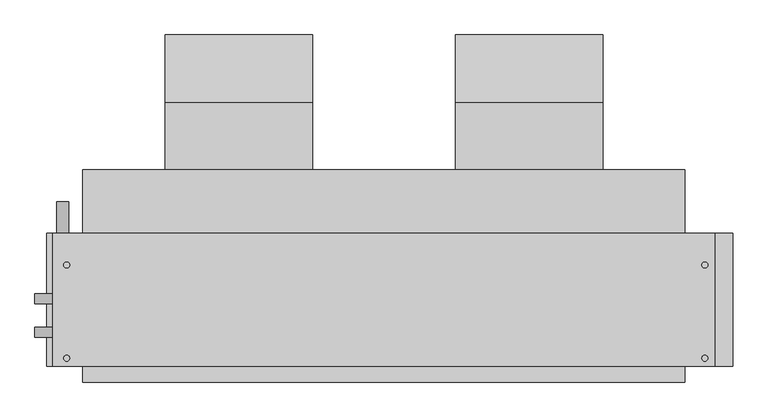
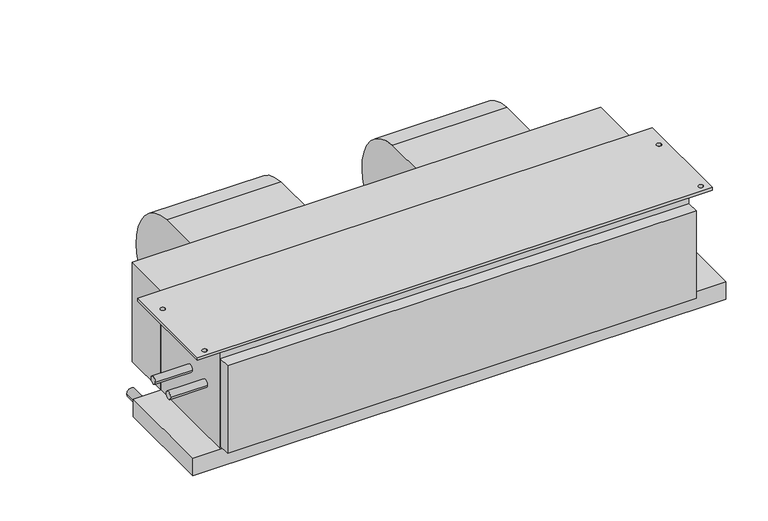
"""IFC4 building model written with IfcOpenShell, lengths in millimetres: proxy geometry, Concealed_Horizontal_Fan_Coil_Unit_-_42CAA_-_CARRIER_-_2-Pipe_Cool-EHeat_LH_2022 : Size 08 - 277v/60Hz/1Ph - 4 Row 6.0kW."""

import ifcopenshell
import ifcopenshell.guid

model = None  # the IFC model being written
_history = None  # IfcOwnerHistory: only IFC2X3 demands one
_inside = {}  # id of a spatial element -> (the spatial element, [elements in it])
_under = {}  # id of a project, library or spatial element -> (it, [spatial elements below it])
_declared = {}  # id of a project -> (the project, [libraries it declares])
_typed = {}  # id of a type object -> (the type object, [elements of that type])
_made_of = {}  # id of a material, layer set ... -> (it, [elements and type objects made of it])


def new_model(schema):
    """Start an empty IFC model of exactly this schema.

    Asked for "IFC4X3", IfcOpenShell would pick the latest addendum, in which some entities
    have other attributes; the version numbers below select the first issue.
    IFC2X3 requires an IfcOwnerHistory on every rooted entity: one is made here for all.
    """
    global model, _history
    if schema == "IFC4X3":
        model = ifcopenshell.file(schema_version=(4, 3, 0, 0))
    else:
        model = ifcopenshell.file(schema=schema)
    _inside.clear()
    _under.clear()
    _declared.clear()
    _typed.clear()
    _made_of.clear()
    _history = None
    if model.schema == "IFC2X3":
        org = make("IfcOrganization", Name="unknown")
        user = make(
            "IfcPersonAndOrganization",
            ThePerson=make("IfcPerson", FamilyName="unknown"),
            TheOrganization=org,
        )
        app = make(
            "IfcApplication",
            ApplicationDeveloper=org,
            Version="unknown",
            ApplicationFullName="unknown",
            ApplicationIdentifier="unknown",
        )
        _history = make(
            "IfcOwnerHistory",
            OwningUser=user,
            OwningApplication=app,
            ChangeAction="ADDED",
            CreationDate=0,
        )
    return model


def make(cls, **values):
    """One entity of the class cls with the attributes given. An attribute that is None is left unset."""
    return model.create_entity(
        cls, **{name: value for name, value in values.items() if value is not None}
    )


def rooted(cls, **values):
    """An entity with a GlobalId (a new one), such as an element, a storey or a relation."""
    return make(cls, GlobalId=ifcopenshell.guid.new(), OwnerHistory=_history, **values)


def si_unit(unit_type, name, prefix=None):
    """IfcSIUnit, for example si_unit("LENGTHUNIT", "METRE", prefix="MILLI")."""
    return make("IfcSIUnit", UnitType=unit_type, Prefix=prefix, Name=name)


def assignment(units):
    """IfcUnitAssignment: the units of a project."""
    return None if units is None else make("IfcUnitAssignment", Units=units)


def point(xyz):
    """IfcCartesianPoint."""
    return None if xyz is None else make("IfcCartesianPoint", Coordinates=xyz)


def direction(xyz):
    """IfcDirection."""
    return None if xyz is None else make("IfcDirection", DirectionRatios=xyz)


def frame(location, z_axis=None, x_axis=None):
    """IfcAxis2Placement3D, a coordinate frame: its origin and axes. An axis left out is left unset."""
    return make(
        "IfcAxis2Placement3D",
        Location=point(location),
        Axis=direction(z_axis),
        RefDirection=direction(x_axis),
    )


def frame_2d(location, x_axis=None):
    """IfcAxis2Placement2D, a coordinate frame in the plane: its origin and x axis."""
    return make(
        "IfcAxis2Placement2D", Location=point(location), RefDirection=direction(x_axis)
    )


def origin():
    """The frame at (0, 0, 0) with its axes left unset."""
    return frame((0.0, 0.0, 0.0))


def place(relative_to, where):
    """IfcLocalPlacement: puts the frame where relative to a parent placement (None: the world)."""
    return make(
        "IfcLocalPlacement", PlacementRelTo=relative_to, RelativePlacement=where
    )


def context(
    kind, dimensions, precision=None, world=None, true_north=None, identifier=None
):
    """IfcGeometricRepresentationContext, for example the 3D "Model" context."""
    return make(
        "IfcGeometricRepresentationContext",
        ContextIdentifier=identifier,
        ContextType=kind,
        CoordinateSpaceDimension=dimensions,
        Precision=precision,
        WorldCoordinateSystem=world,
        TrueNorth=true_north,
    )


def project(units=None, contexts=None):
    """IfcProject with its units and contexts."""
    return rooted(
        "IfcProject",
        Name="project",
        RepresentationContexts=contexts,
        UnitsInContext=assignment(units),
    )


def spatial(cls, under=None, at=None, **own):
    """A site, building, storey or space (cls), placed at a placement, below another one or the project."""
    s = rooted(cls, ObjectPlacement=at, **own)
    if under is not None:
        _under.setdefault(under.id(), (under, []))[1].append(s)
    return s


def polyline(points):
    """IfcPolyline through the points."""
    return make("IfcPolyline", Points=[point(p) for p in points])


def circle_curve(where, radius):
    """IfcCircle in the frame where."""
    return make("IfcCircle", Position=where, Radius=radius)


def trimmed(basis, trim1, trim2, sense, master):
    """IfcTrimmedCurve: the piece of a basis curve between two trims."""
    return make(
        "IfcTrimmedCurve",
        BasisCurve=basis,
        Trim1=trim1,
        Trim2=trim2,
        SenseAgreement=sense,
        MasterRepresentation=master,
    )


def segment(curve, same_sense, transition):
    """IfcCompositeCurveSegment."""
    return make(
        "IfcCompositeCurveSegment",
        Transition=transition,
        SameSense=same_sense,
        ParentCurve=curve,
    )


def composite_curve(segments, self_intersect=None):
    """IfcCompositeCurve: segments joined end to end."""
    return make("IfcCompositeCurve", Segments=segments, SelfIntersect=self_intersect)


def outline(outer, holes=None, kind="AREA"):
    """IfcArbitraryClosedProfileDef: a profile drawn as a closed curve; with holes, ...WithVoids."""
    if holes is None:
        return make("IfcArbitraryClosedProfileDef", ProfileType=kind, OuterCurve=outer)
    return make(
        "IfcArbitraryProfileDefWithVoids",
        ProfileType=kind,
        OuterCurve=outer,
        InnerCurves=holes,
    )


def extrude(swept, where, along, depth):
    """IfcExtrudedAreaSolid: the profile swept, set in the frame where, extruded along a direction by depth."""
    return make(
        "IfcExtrudedAreaSolid",
        SweptArea=swept,
        Position=where,
        ExtrudedDirection=direction(along),
        Depth=depth,
    )


def shape(context_of_items, identifier, shape_type, items):
    """IfcShapeRepresentation: the items that make up one representation, for example the "Body"."""
    return make(
        "IfcShapeRepresentation",
        ContextOfItems=context_of_items,
        RepresentationIdentifier=identifier,
        RepresentationType=shape_type,
        Items=items,
    )


def source(mapping_origin, context_of_items, identifier, shape_type, items):
    """IfcRepresentationMap: a shape defined once, which mapped items show again and again."""
    return make(
        "IfcRepresentationMap",
        MappingOrigin=mapping_origin,
        MappedRepresentation=shape(context_of_items, identifier, shape_type, items),
    )


def transform(
    local_origin,
    x_axis=None,
    y_axis=None,
    z_axis=None,
    scale=None,
    scale2=None,
    scale3=None,
    uniform=True,
):
    """IfcCartesianTransformationOperator3D, or its non-uniform kind. x_axis, y_axis, z_axis: its Axis1, 2, 3."""
    if uniform:
        return make(
            "IfcCartesianTransformationOperator3D",
            Axis1=direction(x_axis),
            Axis2=direction(y_axis),
            LocalOrigin=point(local_origin),
            Scale=scale,
            Axis3=direction(z_axis),
        )
    return make(
        "IfcCartesianTransformationOperator3DnonUniform",
        Axis1=direction(x_axis),
        Axis2=direction(y_axis),
        LocalOrigin=point(local_origin),
        Scale=scale,
        Axis3=direction(z_axis),
        Scale2=scale2,
        Scale3=scale3,
    )


def mapped(mapping_source, mapping_target):
    """IfcMappedItem: shows the shape of a source again, moved by a transform."""
    return make(
        "IfcMappedItem", MappingSource=mapping_source, MappingTarget=mapping_target
    )


def made_of(thing, what):
    """Note that an element or type object is made of a material, layer set ...; save() writes the relation."""
    if what is not None:
        _made_of.setdefault(what.id(), (what, []))[1].append(thing)
    return thing


def element(
    cls,
    number,
    at=None,
    inside=None,
    cuts=None,
    type_object=None,
    material=None,
    context=None,
    identifier="Body",
    shape_type=None,
    held_by="IfcProductDefinitionShape",
    body=None,
    shapes=None,
    **own,
):
    """One element of the class cls, such as IfcWall. Its Tag is "e" and its number.

    at: its placement. inside: the storey or other place that contains it. cuts: it is an
    opening in that element (IfcRelVoidsElement). A single representation is given by context,
    identifier, shape_type and body (its items); several are given by shapes. held_by: the class
    of the entity that holds the representations. save() writes the other relations.
    """
    e = rooted(cls, Tag="e%d" % number, ObjectPlacement=at, **own)
    if body is not None:
        shapes = [shape(context, identifier, shape_type, body)]
    if shapes is not None:
        e.Representation = make(held_by, Representations=shapes)
    if inside is not None:
        _inside.setdefault(inside.id(), (inside, []))[1].append(e)
    if cuts is not None:
        rooted(
            "IfcRelVoidsElement", RelatingBuildingElement=cuts, RelatedOpeningElement=e
        )
    if type_object is not None:
        _typed.setdefault(type_object.id(), (type_object, []))[1].append(e)
    return made_of(e, material)


def aggregate(whole, parts):
    """IfcRelAggregates: a whole, such as a stair, and the parts it consists of."""
    return rooted("IfcRelAggregates", RelatingObject=whole, RelatedObjects=parts)


def save(model, path):
    """Write the relations noted so far, then the file.

    IfcRelAggregates (storeys below a building ...), IfcRelContainedInSpatialStructure (elements
    in a storey), IfcRelDefinesByType, IfcRelAssociatesMaterial and IfcRelDeclares: one each for
    every whole, place, type object, material and project.
    """
    for whole, parts in _under.values():
        aggregate(whole, parts)
    for where, things in _inside.values():
        rooted(
            "IfcRelContainedInSpatialStructure",
            RelatedElements=things,
            RelatingStructure=where,
        )
    for kind, things in _typed.values():
        rooted("IfcRelDefinesByType", RelatedObjects=things, RelatingType=kind)
    for what, things in _made_of.values():
        rooted("IfcRelAssociatesMaterial", RelatedObjects=things, RelatingMaterial=what)
    for by, libraries in _declared.values():
        rooted("IfcRelDeclares", RelatingContext=by, RelatedDefinitions=libraries)
    model.write(path)


def mechanical_equipment_6a71e000(model_context):
    return source(origin(), model_context, "Body", "SweptSolid", [
        extrude(outline(composite_curve([segment(trimmed(circle_curve(frame_2d((68.401169, -136.0299844)), 117.3559541), [point((77.7875, -19.05))], [point((185.7375, -138.176))], False, "CARTESIAN"), True, "CONTINUOUS"), segment(trimmed(circle_curve(frame_2d((90.0022663, -136.4250563)), 95.7512443), [point((185.7375, -138.176))], [point((77.7875, -231.394))], False, "CARTESIAN"), True, "CONTINUOUS"), segment(trimmed(circle_curve(frame_2d((89.9711869, -136.6666968)), 95.5076133), [point((77.7875, -231.394))], [point((-5.5245, -138.176))], False, "CARTESIAN"), True, "CONTINUOUS"), segment(trimmed(circle_curve(frame_2d((-24.6059828, -138.4775816)), 19.0838659), [point((-5.5245, -138.176))], [point((-17.7963373, -120.65))], True, "CARTESIAN"), True, "CONTINUOUS"), segment(polyline([(-17.7963373, -120.65), (-30.1625, -120.65), (-30.1625, -19.05), (77.7875, -19.05)]), True, "CONTINUOUS")], self_intersect=False)), frame((267.5255, 0.0, 0.0), z_axis=(1.0, 0.0, 0.0), x_axis=(0.0, 1.0, 0.0)), (0.0, 0.0, 1.0), 235.712),
        extrude(outline(composite_curve([segment(trimmed(circle_curve(frame_2d((68.401169, -136.0299844)), 117.3559541), [point((77.7875, -19.05))], [point((185.7375, -138.176))], False, "CARTESIAN"), True, "CONTINUOUS"), segment(trimmed(circle_curve(frame_2d((90.0022663, -136.4250563)), 95.7512443), [point((185.7375, -138.176))], [point((77.7875, -231.394))], False, "CARTESIAN"), True, "CONTINUOUS"), segment(trimmed(circle_curve(frame_2d((89.9711869, -136.6666968)), 95.5076133), [point((77.7875, -231.394))], [point((-5.5245, -138.176))], False, "CARTESIAN"), True, "CONTINUOUS"), segment(trimmed(circle_curve(frame_2d((-24.6059828, -138.4775816)), 19.0838659), [point((-5.5245, -138.176))], [point((-17.7963373, -120.65))], True, "CARTESIAN"), True, "CONTINUOUS"), segment(polyline([(-17.7963373, -120.65), (-30.1625, -120.65), (-30.1625, -19.05), (77.7875, -19.05)]), True, "CONTINUOUS")], self_intersect=False)), frame((-197.612, 0.0, 0.0), z_axis=(1.0, 0.0, 0.0), x_axis=(0.0, 1.0, 0.0)), (0.0, 0.0, 1.0), 235.712),
        extrude(outline(polyline([(682.625, -131.7625), (682.625, -344.4875), (-377.825, -344.4875), (-377.825, -131.7625), (682.625, -131.7625)]), holes=[composite_curve([segment(trimmed(circle_curve(frame_2d((-355.6, -182.5625)), 4.7625), [point((-360.3625, -182.5625))], [point((-350.8375, -182.5625))], True, "CARTESIAN"), True, "CONTINUOUS"), segment(trimmed(circle_curve(frame_2d((-355.6, -182.5625)), 4.7625), [point((-350.8375, -182.5625))], [point((-360.3625, -182.5625))], True, "CARTESIAN"), True, "CONTINUOUS")], self_intersect=False), composite_curve([segment(trimmed(circle_curve(frame_2d((-355.6, -331.7875)), 4.7625), [point((-360.3625, -331.7875))], [point((-350.8375, -331.7875))], True, "CARTESIAN"), True, "CONTINUOUS"), segment(trimmed(circle_curve(frame_2d((-355.6, -331.7875)), 4.7625), [point((-350.8375, -331.7875))], [point((-360.3625, -331.7875))], True, "CARTESIAN"), True, "CONTINUOUS")], self_intersect=False), composite_curve([segment(trimmed(circle_curve(frame_2d((666.75, -182.5625)), 4.7625), [point((661.9875, -182.5625))], [point((671.5125, -182.5625))], True, "CARTESIAN"), True, "CONTINUOUS"), segment(trimmed(circle_curve(frame_2d((666.75, -182.5625)), 4.7625), [point((671.5125, -182.5625))], [point((661.9875, -182.5625))], True, "CARTESIAN"), True, "CONTINUOUS")], self_intersect=False), composite_curve([segment(trimmed(circle_curve(frame_2d((666.75, -331.7875)), 4.7625), [point((661.9875, -331.7875))], [point((671.5125, -331.7875))], True, "CARTESIAN"), True, "CONTINUOUS"), segment(trimmed(circle_curve(frame_2d((666.75, -331.7875)), 4.7625), [point((671.5125, -331.7875))], [point((661.9875, -331.7875))], True, "CARTESIAN"), True, "CONTINUOUS")], self_intersect=False)]), frame((0.0, 0.0, -6.35), z_axis=(0.0, 0.0, 1.0), x_axis=(1.0, 0.0, 0.0)), (0.0, 0.0, 1.0), 6.35),
        extrude(outline(polyline([(-330.2, -30.1625), (635.0, -30.1625), (635.0, -131.7625), (-330.2, -131.7625), (-330.2, -30.1625)])), frame((0.0, 0.0, -215.9), z_axis=(0.0, 0.0, 1.0), x_axis=(1.0, 0.0, 0.0)), (0.0, 0.0, 1.0), 215.9),
        extrude(outline(composite_curve([segment(trimmed(circle_curve(frame_2d((-241.3, -361.95)), 9.525), [point((-241.3, -371.475))], [point((-241.3, -352.425))], False, "CARTESIAN"), True, "CONTINUOUS"), segment(trimmed(circle_curve(frame_2d((-241.3, -361.95)), 9.525), [point((-241.3, -352.425))], [point((-241.3, -371.475))], False, "CARTESIAN"), True, "CONTINUOUS")], self_intersect=False)), frame((0.0, -131.7625, 0.0), z_axis=(0.0, 1.0, 0.0), x_axis=(0.0, 0.0, 1.0)), (0.0, 0.0, 1.0), 50.8),
        extrude(outline(polyline([(635.0, -369.8875), (-330.2, -369.8875), (-330.2, -344.4875), (635.0, -344.4875), (635.0, -369.8875)])), frame((0.0, 0.0, -209.55), z_axis=(0.0, 0.0, 1.0), x_axis=(1.0, 0.0, 0.0)), (0.0, 0.0, 1.0), 190.5),
        extrude(outline(polyline([(711.2, -131.7625), (711.2, -344.4875), (-387.35, -344.4875), (-387.35, -131.7625), (711.2, -131.7625)])), frame((0.0, 0.0, -254.0), z_axis=(0.0, 0.0, 1.0), x_axis=(1.0, 0.0, 0.0)), (0.0, 0.0, 1.0), 38.1),
        extrude(outline(composite_curve([segment(trimmed(circle_curve(frame_2d((-290.5125, -104.775)), 7.9375), [point((-282.575, -104.775))], [point((-298.45, -104.775))], False, "CARTESIAN"), True, "CONTINUOUS"), segment(trimmed(circle_curve(frame_2d((-290.5125, -104.775)), 7.9375), [point((-298.45, -104.775))], [point((-282.575, -104.775))], False, "CARTESIAN"), True, "CONTINUOUS")], self_intersect=False)), frame((-406.4, 0.0, 0.0), z_axis=(1.0, 0.0, 0.0), x_axis=(0.0, 1.0, 0.0)), (0.0, 0.0, 1.0), 76.2),
        extrude(outline(composite_curve([segment(trimmed(circle_curve(frame_2d((-236.5375, -104.775)), 7.9375), [point((-228.6, -104.775))], [point((-244.475, -104.775))], False, "CARTESIAN"), True, "CONTINUOUS"), segment(trimmed(circle_curve(frame_2d((-236.5375, -104.775)), 7.9375), [point((-244.475, -104.775))], [point((-228.6, -104.775))], False, "CARTESIAN"), True, "CONTINUOUS")], self_intersect=False)), frame((-406.4, 0.0, 0.0), z_axis=(1.0, 0.0, 0.0), x_axis=(0.0, 1.0, 0.0)), (0.0, 0.0, 1.0), 76.2),
        extrude(outline(polyline([(635.0, -344.4875), (-330.2, -344.4875), (-330.2, -131.7625), (635.0, -131.7625), (635.0, -344.4875)])), frame((0.0, 0.0, -215.9), z_axis=(0.0, 0.0, 1.0), x_axis=(1.0, 0.0, 0.0)), (0.0, 0.0, 1.0), 209.55),
    ])


if __name__ == "__main__":
    model = new_model("IFC4")
    model_context = context("Model", 3, world=origin())
    ifc_project = project(units=[si_unit("LENGTHUNIT", "METRE", prefix="MILLI")], contexts=[model_context])
    site = spatial("IfcSite", under=ifc_project)
    building = spatial("IfcBuilding", under=site)
    placement = place(None, origin())
    mechanical_equipment_shape = mechanical_equipment_6a71e000(model_context)
    element("IfcBuildingElementProxy", 1, Name="Concealed_Horizontal_Fan_Coil_Unit_-_42CAA_-_CARRIER_-_2-Pipe_Cool-EHeat_LH_2022 : Size 08 - 277v/60Hz/1Ph - 4 Row 6.0kW", ObjectType="Concealed_Horizontal_Fan_Coil_Unit_-_42CAA_-_CARRIER_-_2-Pipe_Cool-EHeat_LH_2022 : Size 08 - 277v/60Hz/1Ph - 4 Row 6.0kW", at=placement, inside=building, context=model_context, shape_type="MappedRepresentation", body=[
        mapped(mechanical_equipment_shape, transform((0.0, 0.0, 0.0), x_axis=(1.0, 0.0, 0.0), y_axis=(0.0, 1.0, 0.0), z_axis=(0.0, 0.0, 1.0))),
    ])
    save(model, "model.ifc")
